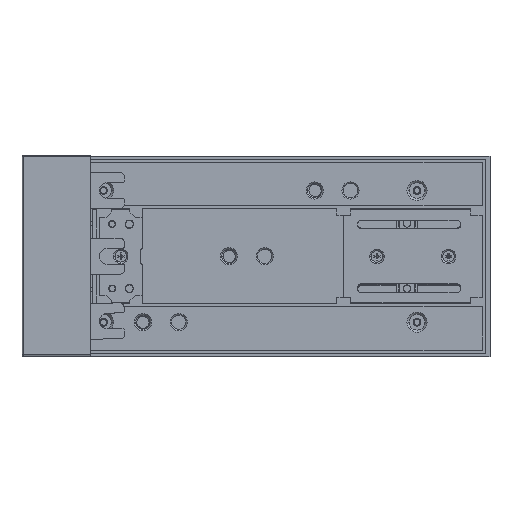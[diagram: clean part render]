
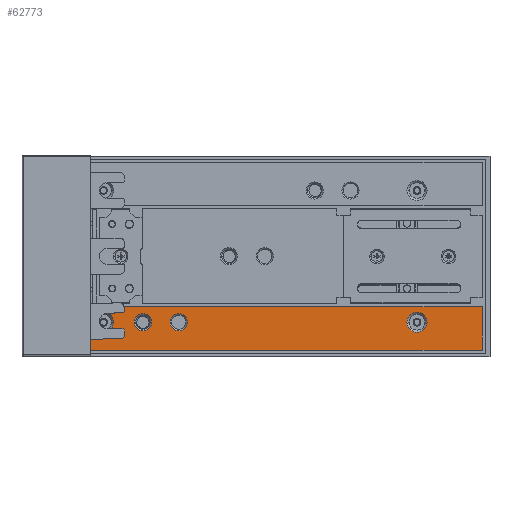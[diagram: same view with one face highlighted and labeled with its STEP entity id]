
A CAD part, top view. The second image highlights one B-rep face of the part: STEP entity #62773.
In plain terms, the highlighted planar face has unit normal (0, 0, 1).
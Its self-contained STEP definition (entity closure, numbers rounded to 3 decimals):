
#1468 = VERTEX_POINT ( 'NONE', #146490 ) ;
#1927 = CIRCLE ( 'NONE', #14705, 7. ) ;
#2660 = ORIENTED_EDGE ( 'NONE', *, *, #147983, .T. ) ;
#3417 = PLANE ( 'NONE',  #68704 ) ;
#4221 = FACE_BOUND ( 'NONE', #133382, .T. ) ;
#5120 = CARTESIAN_POINT ( 'NONE',  ( -38.609, 159.515, 341.751 ) ) ;
#6456 = VERTEX_POINT ( 'NONE', #63581 ) ;
#8690 = LINE ( 'NONE', #131718, #35689 ) ;
#11532 = EDGE_LOOP ( 'NONE', ( #52925, #26697 ) ) ;
#12693 = DIRECTION ( 'NONE',  ( 0., 0., -1. ) ) ;
#14705 = AXIS2_PLACEMENT_3D ( 'NONE', #38551, #110477, #108120 ) ;
#16662 = DIRECTION ( 'NONE',  ( -1., 0., 0. ) ) ;
#18574 = DIRECTION ( 'NONE',  ( 1., 0., 0. ) ) ;
#20666 = DIRECTION ( 'NONE',  ( 1., 0., 0. ) ) ;
#20961 = CARTESIAN_POINT ( 'NONE',  ( 128.891, 159.515, 341.751 ) ) ;
#21670 = DIRECTION ( 'NONE',  ( 1., 0., 0. ) ) ;
#22242 = CIRCLE ( 'NONE', #29901, 7. ) ;
#24130 = VERTEX_POINT ( 'NONE', #95007 ) ;
#26697 = ORIENTED_EDGE ( 'NONE', *, *, #106476, .T. ) ;
#28897 = DIRECTION ( 'NONE',  ( 1., 0., 0. ) ) ;
#29605 = CARTESIAN_POINT ( 'NONE',  ( -50.609, 159.515, 341.751 ) ) ;
#29901 = AXIS2_PLACEMENT_3D ( 'NONE', #106251, #94282, #59836 ) ;
#33884 = VECTOR ( 'NONE', #16662, 1000. ) ;
#35433 = CARTESIAN_POINT ( 'NONE',  ( -63.609, 159.515, 341.751 ) ) ;
#35689 = VECTOR ( 'NONE', #156456, 1000. ) ;
#35795 = VERTEX_POINT ( 'NONE', #20961 ) ;
#36100 = DIRECTION ( 'NONE',  ( 0., -1., 0. ) ) ;
#36843 = EDGE_LOOP ( 'NONE', ( #69180, #145414, #76628, #87494 ) ) ;
#37495 = LINE ( 'NONE', #110991, #33884 ) ;
#37638 = DIRECTION ( 'NONE',  ( 1., 0., 0. ) ) ;
#38551 = CARTESIAN_POINT ( 'NONE',  ( -97.109, 159.515, 341.751 ) ) ;
#39953 = CARTESIAN_POINT ( 'NONE',  ( -107.109, 170.265, 341.751 ) ) ;
#43181 = AXIS2_PLACEMENT_3D ( 'NONE', #92032, #140789, #61518 ) ;
#43550 = VERTEX_POINT ( 'NONE', #39953 ) ;
#43942 = VERTEX_POINT ( 'NONE', #92470 ) ;
#44075 = VERTEX_POINT ( 'NONE', #84404 ) ;
#44423 = EDGE_CURVE ( 'NONE', #66821, #153257, #139833, .T. ) ;
#47042 = DIRECTION ( 'NONE',  ( 1., 0., 0. ) ) ;
#47296 = CARTESIAN_POINT ( 'NONE',  ( -107.109, 205.515, 341.751 ) ) ;
#47879 = CIRCLE ( 'NONE', #137228, 6. ) ;
#48018 = DIRECTION ( 'NONE',  ( 0., 0., -1. ) ) ;
#48358 = ORIENTED_EDGE ( 'NONE', *, *, #44423, .T. ) ;
#50477 = ORIENTED_EDGE ( 'NONE', *, *, #51494, .T. ) ;
#51402 = AXIS2_PLACEMENT_3D ( 'NONE', #132505, #82163, #20666 ) ;
#51494 = EDGE_CURVE ( 'NONE', #153257, #66821, #155431, .T. ) ;
#52925 = ORIENTED_EDGE ( 'NONE', *, *, #67262, .T. ) ;
#54514 = FACE_OUTER_BOUND ( 'NONE', #36843, .T. ) ;
#59087 = AXIS2_PLACEMENT_3D ( 'NONE', #80895, #152846, #128873 ) ;
#59836 = DIRECTION ( 'NONE',  ( 1., 0., 0. ) ) ;
#60593 = CARTESIAN_POINT ( 'NONE',  ( -44.609, 159.515, 341.751 ) ) ;
#61518 = DIRECTION ( 'NONE',  ( 1., 0., 0. ) ) ;
#62600 = CARTESIAN_POINT ( 'NONE',  ( -75.609, 159.515, 341.751 ) ) ;
#62773 = ADVANCED_FACE ( 'NONE', ( #54514, #103278, #4221, #92095, #65728 ), #3417, .T. ) ;
#63266 = AXIS2_PLACEMENT_3D ( 'NONE', #83174, #48018, #21670 ) ;
#63581 = CARTESIAN_POINT ( 'NONE',  ( -107.109, 140.015, 341.751 ) ) ;
#65728 = FACE_BOUND ( 'NONE', #138206, .T. ) ;
#65804 = CIRCLE ( 'NONE', #63266, 7. ) ;
#66821 = VERTEX_POINT ( 'NONE', #62600 ) ;
#67262 = EDGE_CURVE ( 'NONE', #127601, #44075, #69392, .T. ) ;
#68538 = EDGE_CURVE ( 'NONE', #43550, #6456, #132039, .T. ) ;
#68704 = AXIS2_PLACEMENT_3D ( 'NONE', #91290, #138467, #18574 ) ;
#69180 = ORIENTED_EDGE ( 'NONE', *, *, #124357, .T. ) ;
#69392 = CIRCLE ( 'NONE', #59087, 7. ) ;
#75916 = EDGE_CURVE ( 'NONE', #1468, #35795, #65804, .T. ) ;
#76628 = ORIENTED_EDGE ( 'NONE', *, *, #68538, .T. ) ;
#77519 = EDGE_CURVE ( 'NONE', #134060, #150318, #47879, .T. ) ;
#80895 = CARTESIAN_POINT ( 'NONE',  ( -97.109, 159.515, 341.751 ) ) ;
#82163 = DIRECTION ( 'NONE',  ( 0., 0., -1. ) ) ;
#83174 = CARTESIAN_POINT ( 'NONE',  ( 121.891, 159.515, 341.751 ) ) ;
#84404 = CARTESIAN_POINT ( 'NONE',  ( -104.109, 159.515, 341.751 ) ) ;
#84505 = ORIENTED_EDGE ( 'NONE', *, *, #77519, .T. ) ;
#87494 = ORIENTED_EDGE ( 'NONE', *, *, #115701, .T. ) ;
#91290 = CARTESIAN_POINT ( 'NONE',  ( 11.891, 205.515, 341.751 ) ) ;
#92032 = CARTESIAN_POINT ( 'NONE',  ( -69.609, 159.515, 341.751 ) ) ;
#92095 = FACE_BOUND ( 'NONE', #11532, .T. ) ;
#92470 = CARTESIAN_POINT ( 'NONE',  ( 167.391, 170.265, 341.751 ) ) ;
#94282 = DIRECTION ( 'NONE',  ( 0., 0., -1. ) ) ;
#94930 = ORIENTED_EDGE ( 'NONE', *, *, #75916, .T. ) ;
#95007 = CARTESIAN_POINT ( 'NONE',  ( 167.391, 140.015, 341.751 ) ) ;
#98463 = CARTESIAN_POINT ( 'NONE',  ( 11.891, 140.015, 341.751 ) ) ;
#98944 = AXIS2_PLACEMENT_3D ( 'NONE', #107989, #156739, #37638 ) ;
#103278 = FACE_BOUND ( 'NONE', #116156, .T. ) ;
#106251 = CARTESIAN_POINT ( 'NONE',  ( 121.891, 159.515, 341.751 ) ) ;
#106476 = EDGE_CURVE ( 'NONE', #44075, #127601, #1927, .T. ) ;
#107989 = CARTESIAN_POINT ( 'NONE',  ( -69.609, 159.515, 341.751 ) ) ;
#108120 = DIRECTION ( 'NONE',  ( 1., 0., 0. ) ) ;
#110477 = DIRECTION ( 'NONE',  ( 0., 0., -1. ) ) ;
#110991 = CARTESIAN_POINT ( 'NONE',  ( 11.891, 170.265, 341.751 ) ) ;
#115701 = EDGE_CURVE ( 'NONE', #6456, #24130, #138393, .T. ) ;
#116156 = EDGE_LOOP ( 'NONE', ( #2660, #84505 ) ) ;
#119815 = EDGE_CURVE ( 'NONE', #35795, #1468, #22242, .T. ) ;
#124357 = EDGE_CURVE ( 'NONE', #24130, #43942, #8690, .T. ) ;
#125773 = VECTOR ( 'NONE', #28897, 1000. ) ;
#127601 = VERTEX_POINT ( 'NONE', #130867 ) ;
#128873 = DIRECTION ( 'NONE',  ( 1., 0., 0. ) ) ;
#130867 = CARTESIAN_POINT ( 'NONE',  ( -90.109, 159.515, 341.751 ) ) ;
#131718 = CARTESIAN_POINT ( 'NONE',  ( 167.391, 205.515, 341.751 ) ) ;
#132039 = LINE ( 'NONE', #47296, #141146 ) ;
#132505 = CARTESIAN_POINT ( 'NONE',  ( -44.609, 159.515, 341.751 ) ) ;
#133382 = EDGE_LOOP ( 'NONE', ( #50477, #48358 ) ) ;
#134060 = VERTEX_POINT ( 'NONE', #29605 ) ;
#135642 = CIRCLE ( 'NONE', #51402, 6. ) ;
#137228 = AXIS2_PLACEMENT_3D ( 'NONE', #60593, #12693, #47042 ) ;
#138206 = EDGE_LOOP ( 'NONE', ( #148656, #94930 ) ) ;
#138393 = LINE ( 'NONE', #98463, #125773 ) ;
#138467 = DIRECTION ( 'NONE',  ( 0., 0., 1. ) ) ;
#139833 = CIRCLE ( 'NONE', #98944, 6. ) ;
#140789 = DIRECTION ( 'NONE',  ( 0., 0., -1. ) ) ;
#141146 = VECTOR ( 'NONE', #36100, 1000. ) ;
#145414 = ORIENTED_EDGE ( 'NONE', *, *, #149438, .T. ) ;
#146490 = CARTESIAN_POINT ( 'NONE',  ( 114.891, 159.515, 341.751 ) ) ;
#147983 = EDGE_CURVE ( 'NONE', #150318, #134060, #135642, .T. ) ;
#148656 = ORIENTED_EDGE ( 'NONE', *, *, #119815, .T. ) ;
#149438 = EDGE_CURVE ( 'NONE', #43942, #43550, #37495, .T. ) ;
#150318 = VERTEX_POINT ( 'NONE', #5120 ) ;
#152846 = DIRECTION ( 'NONE',  ( 0., 0., -1. ) ) ;
#153257 = VERTEX_POINT ( 'NONE', #35433 ) ;
#155431 = CIRCLE ( 'NONE', #43181, 6. ) ;
#156456 = DIRECTION ( 'NONE',  ( 0., 1., 0. ) ) ;
#156739 = DIRECTION ( 'NONE',  ( 0., 0., -1. ) ) ;
